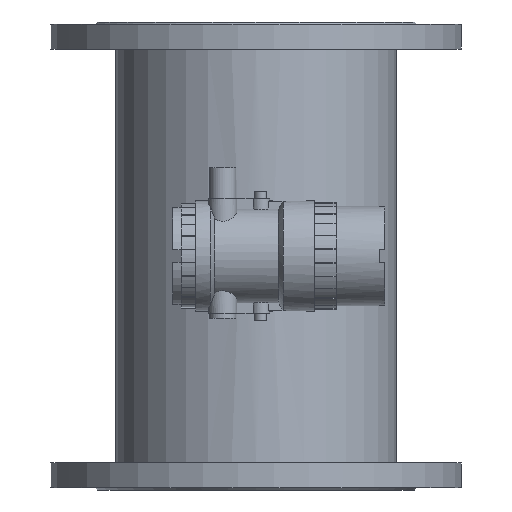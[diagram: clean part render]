
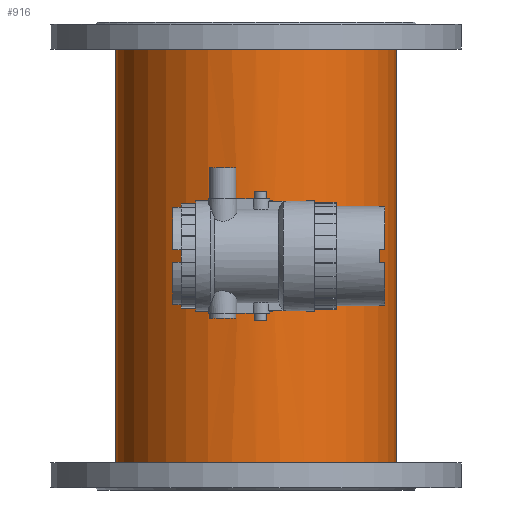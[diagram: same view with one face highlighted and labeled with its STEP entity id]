
A CAD part, left-side view. The second image highlights one B-rep face of the part: STEP entity #916.
In plain terms, the highlighted cylindrical face has radius 135 mm (diameter 270 mm), a full revolution.
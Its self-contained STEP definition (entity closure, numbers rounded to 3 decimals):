
#916=ADVANCED_FACE('',(#1272,#1273,#1274),#1139,.T.);
#1139=CYLINDRICAL_SURFACE('',#4064,135.);
#1248=B_SPLINE_CURVE_WITH_KNOTS('',3,(#5723,#5724,#5725,#5726,#5727,#5728,
#5729,#5730,#5731,#5732,#5733,#5734,#5735,#5736,#5737,#5738,#5739,#5740,
#5741,#5742,#5743,#5744,#5745,#5746,#5747,#5748,#5749,#5750),
 .UNSPECIFIED.,.T.,.F.,(2,2,2,2,2,2,2,2,2,2,2,2,2,2,2,2),(-0.125,
0.,0.062,0.125,0.25,0.312,
0.375,0.437,0.5,0.625,
0.687,0.75,0.812,0.875,
1.,1.063),.UNSPECIFIED.);
#1272=FACE_BOUND('',#1446,.T.);
#1273=FACE_BOUND('',#1447,.T.);
#1274=FACE_BOUND('',#1448,.T.);
#1446=EDGE_LOOP('',(#1784));
#1447=EDGE_LOOP('',(#1785));
#1448=EDGE_LOOP('',(#1786));
#1784=ORIENTED_EDGE('',*,*,#3281,.F.);
#1785=ORIENTED_EDGE('',*,*,#3282,.T.);
#1786=ORIENTED_EDGE('',*,*,#3283,.F.);
#2886=VERTEX_POINT('',#5720);
#2887=VERTEX_POINT('',#5722);
#2888=VERTEX_POINT('',#5751);
#3281=EDGE_CURVE('',#2886,#2886,#3832,.T.);
#3282=EDGE_CURVE('',#2887,#2887,#3833,.T.);
#3283=EDGE_CURVE('',#2888,#2888,#1248,.T.);
#3832=CIRCLE('',#4062,135.);
#3833=CIRCLE('',#4063,135.);
#4062=AXIS2_PLACEMENT_3D('',#5719,#4516,#4517);
#4063=AXIS2_PLACEMENT_3D('',#5721,#4518,#4519);
#4064=AXIS2_PLACEMENT_3D('',#5752,#4520,#4521);
#4516=DIRECTION('',(0.,0.,-1.));
#4517=DIRECTION('',(-1.,0.,0.));
#4518=DIRECTION('',(0.,0.,-1.));
#4519=DIRECTION('',(1.,0.,0.));
#4520=DIRECTION('',(0.,0.,1.));
#4521=DIRECTION('',(1.,0.,0.));
#5719=CARTESIAN_POINT('',(293.8,0.,-322.5));
#5720=CARTESIAN_POINT('',(158.8,0.,-322.5));
#5721=CARTESIAN_POINT('',(293.8,0.,75.5));
#5722=CARTESIAN_POINT('',(428.8,0.,75.5));
#5723=CARTESIAN_POINT('',(158.8,4.232,-139.5));
#5724=CARTESIAN_POINT('',(158.8,-2.116,-139.5));
#5725=CARTESIAN_POINT('',(158.851,-4.192,-139.083));
#5726=CARTESIAN_POINT('',(159.027,-8.067,-137.476));
#5727=CARTESIAN_POINT('',(159.151,-9.84,-136.287));
#5728=CARTESIAN_POINT('',(159.523,-14.264,-131.863));
#5729=CARTESIAN_POINT('',(159.751,-15.998,-127.687));
#5730=CARTESIAN_POINT('',(159.752,-16.001,-121.42));
#5731=CARTESIAN_POINT('',(159.7,-15.587,-119.322));
#5732=CARTESIAN_POINT('',(159.524,-13.983,-115.445));
#5733=CARTESIAN_POINT('',(159.401,-12.811,-113.684));
#5734=CARTESIAN_POINT('',(159.15,-9.826,-110.697));
#5735=CARTESIAN_POINT('',(159.027,-8.066,-109.524));
#5736=CARTESIAN_POINT('',(158.851,-4.192,-107.917));
#5737=CARTESIAN_POINT('',(158.8,-2.095,-107.501));
#5738=CARTESIAN_POINT('',(158.8,4.172,-107.498));
#5739=CARTESIAN_POINT('',(159.026,8.35,-109.228));
#5740=CARTESIAN_POINT('',(159.398,12.779,-113.649));
#5741=CARTESIAN_POINT('',(159.522,13.969,-115.421));
#5742=CARTESIAN_POINT('',(159.699,15.579,-119.294));
#5743=CARTESIAN_POINT('',(159.751,15.998,-121.369));
#5744=CARTESIAN_POINT('',(159.752,16.002,-125.601));
#5745=CARTESIAN_POINT('',(159.7,15.587,-127.678));
#5746=CARTESIAN_POINT('',(159.524,13.983,-131.554));
#5747=CARTESIAN_POINT('',(159.4,12.796,-133.329));
#5748=CARTESIAN_POINT('',(159.028,8.376,-137.756));
#5749=CARTESIAN_POINT('',(158.8,4.232,-139.5));
#5750=CARTESIAN_POINT('',(158.8,-2.116,-139.5));
#5751=CARTESIAN_POINT('',(158.8,0.,-139.5));
#5752=CARTESIAN_POINT('',(293.8,0.,-435.5));
